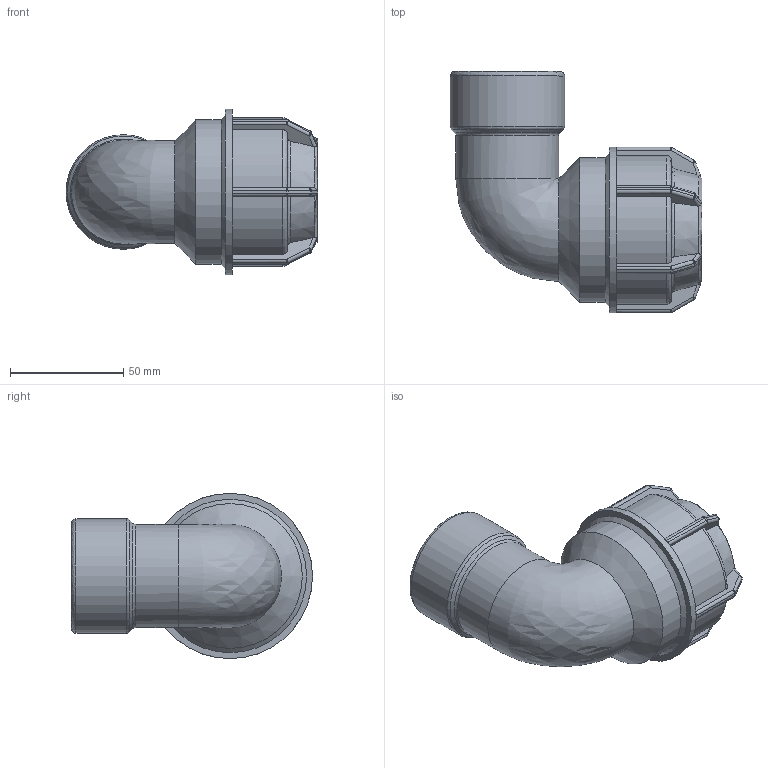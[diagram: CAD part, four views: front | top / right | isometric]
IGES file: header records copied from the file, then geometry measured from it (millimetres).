
Global section: file name: 141500040013.ipt; native system: Autodesk Inventor 2015; preprocessor: unknown; author: KIM; date: 20180409.131200; units: millimetre
Bounding box: 111.32 x 106.5 x 73 mm (x, y, z)
Volume: 185652.3 mm3; surface area: 48384.1 mm2
Topology: 1 solids, 1 shells, 213 faces, 516 edges, 302 vertices
Faces by surface type: plane 98, cylinder 58, sphere 24, revolution 23, cone 9, bspline 1
Full cylindrical faces by diameter (mm): 45.574 x1, 50.638 x1, 64 x1, 73 x1
